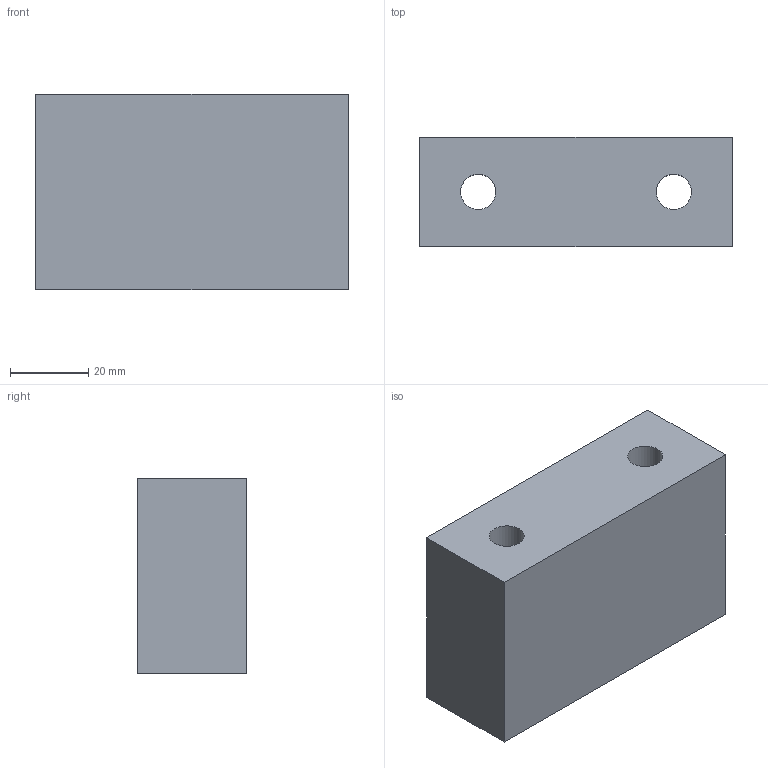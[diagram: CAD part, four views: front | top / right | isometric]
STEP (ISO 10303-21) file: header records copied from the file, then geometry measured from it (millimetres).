
FILE_DESCRIPTION(('STEP AP203'), '1');
FILE_NAME('眐珆1800.01.01.00.025 逄闉', '', ('UNSPECIFIED'), ('UNSPECIFIED'), 'C3D Converter', 'C3D Toolkit', '');
FILE_SCHEMA(('CONFIG_CONTROL_DESIGN'));
Length unit declared in the file: millimetre
Products named in the file (1): ТППФ1800.01.01.00.025
Bounding box: 80 x 28 x 50 mm (x, y, z)
Volume: 103828.7 mm3; surface area: 18154.6 mm2
Topology: 1 solids, 1 shells, 12 faces, 24 edges, 16 vertices
Faces by surface type: plane 8, cylinder 4
Full cylindrical faces by diameter (mm): 9 x2, 15 x2
Entity records: 435 total; most frequent: DIRECTION 54, CARTESIAN_POINT 49, ORIENTED_EDGE 40, EDGE_LOOP 22, AXIS2_PLACEMENT_3D 21, EDGE_CURVE 20, VERTEX_POINT 16, FACE_BOUND 14
